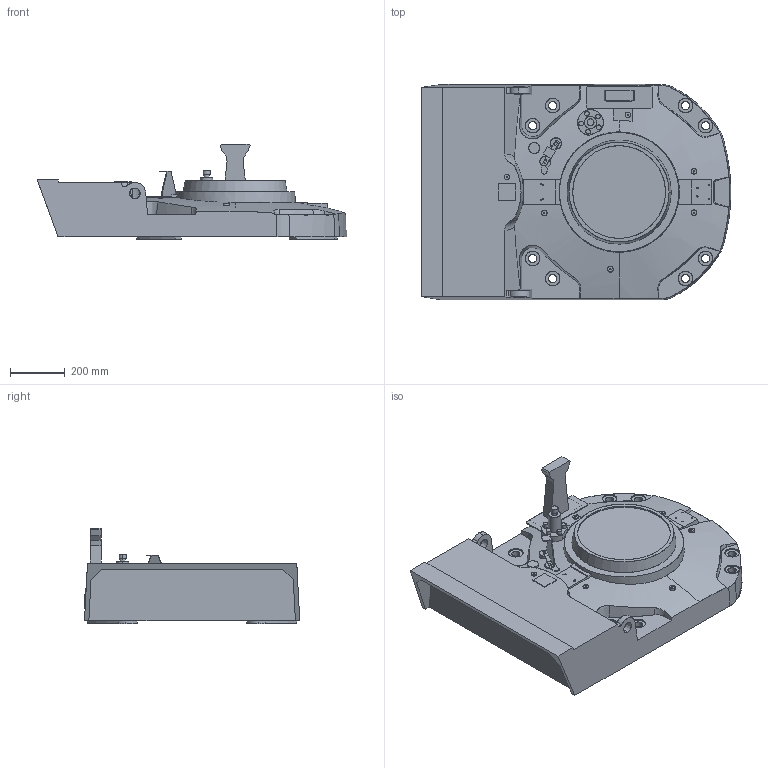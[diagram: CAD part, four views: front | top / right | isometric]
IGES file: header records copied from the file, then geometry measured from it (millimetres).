
Start section: SolidWorks IGES file using analytic representation for surfaces
Global section: file name: C:\Data\Lättmodeller\Nytt\660\IRB660_180-315_IRC5_rev03\IRB660_180-315_IRC5_rev03_IRC5_IGES_j\IRB660_180-315_BASE_CAD_rev02.IGS; native system: SolidWorks 2014; preprocessor: SolidWorks 2014; author: seadbov; date: 161202.130156; units: millimetre
Bounding box: 1136.43 x 790.93 x 350 mm (x, y, z)
Surface area: 2588029.5 mm2 (no closed solid volume)
Topology: 0 solids, 0 shells, 355 faces, 7922 edges, 7922 vertices
Faces by surface type: revolution 181, bspline 174
